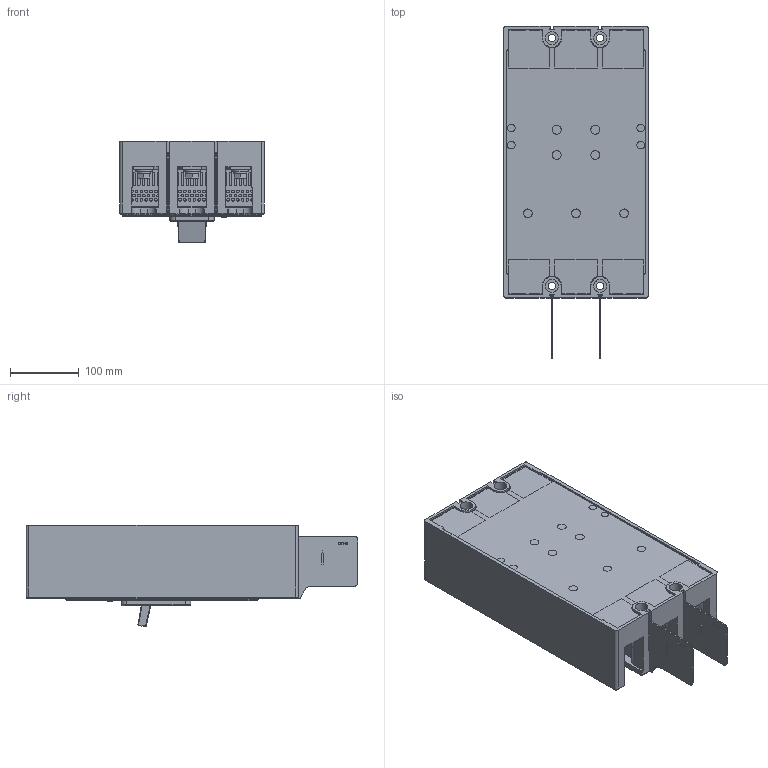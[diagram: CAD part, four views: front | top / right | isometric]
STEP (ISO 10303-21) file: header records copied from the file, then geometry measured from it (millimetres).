
FILE_DESCRIPTION((''),'2;1');
FILE_NAME('2256002200_SW0001','2023-11-13T',('baocang.li'),(''),'PRO/ENGINEER BY PARAMETRIC TECHNOLOGY CORPORATION, 2015440','PRO/ENGINEER BY PARAMETRIC TECHNOLOGY CORPORATION, 2015440','');
FILE_SCHEMA(('CONFIG_CONTROL_DESIGN'));
Products named in the file (1): 2256002200_SW0001
Bounding box: 210 x 482 x 147.62 mm (x, y, z)
Volume: 7266227.8 mm3; surface area: 580498 mm2
Topology: 1 solids, 24 shells, 9115 faces, 22914 edges, 15054 vertices
Faces by surface type: plane 8349, cylinder 610, cone 68, bspline 42, torus 34, sphere 12
Entity records: 273596 total; most frequent: CARTESIAN_POINT 53519, ORIENTED_EDGE 45790, DIRECTION 42531, EDGE_CURVE 22895, VECTOR 20953, LINE 20953, VERTEX_POINT 15054, AXIS2_PLACEMENT_3D 10789
